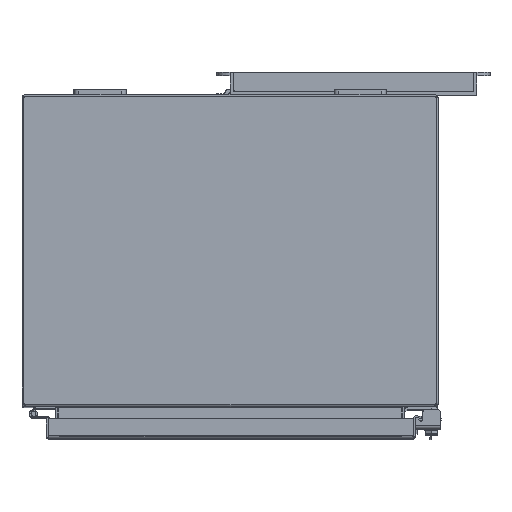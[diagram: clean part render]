
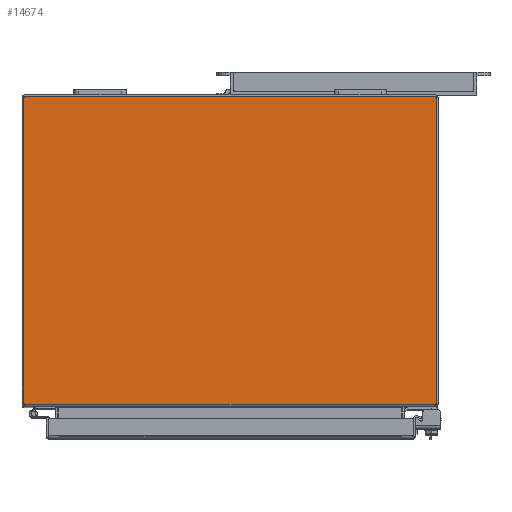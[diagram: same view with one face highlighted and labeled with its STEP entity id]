
A CAD part, top view. The second image highlights one B-rep face of the part: STEP entity #14674.
In plain terms, the highlighted planar face has unit normal (0, 0, 1).
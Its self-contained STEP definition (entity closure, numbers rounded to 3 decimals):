
#1687=LINE('',#27127,#3010);
#1691=LINE('',#27136,#3014);
#1694=LINE('',#27143,#3017);
#1698=LINE('',#27150,#3021);
#3010=VECTOR('',#19622,1000.);
#3014=VECTOR('',#19630,1000.);
#3017=VECTOR('',#19635,1000.);
#3021=VECTOR('',#19641,1000.);
#7728=ORIENTED_EDGE('',*,*,#9814,.F.);
#7729=ORIENTED_EDGE('',*,*,#9813,.F.);
#7730=ORIENTED_EDGE('',*,*,#9806,.F.);
#7731=ORIENTED_EDGE('',*,*,#9809,.T.);
#7732=ORIENTED_EDGE('',*,*,#9817,.F.);
#7733=ORIENTED_EDGE('',*,*,#9802,.T.);
#9802=EDGE_CURVE('',#11142,#11148,#1687,.T.);
#9806=EDGE_CURVE('',#11151,#11152,#1691,.T.);
#9809=EDGE_CURVE('',#11151,#11154,#1694,.T.);
#9813=EDGE_CURVE('',#11152,#11156,#1698,.T.);
#9814=EDGE_CURVE('',#11156,#11148,#11608,.T.);
#9817=EDGE_CURVE('',#11142,#11154,#11611,.T.);
#11142=VERTEX_POINT('',#27038);
#11148=VERTEX_POINT('',#27120);
#11151=VERTEX_POINT('',#27135);
#11152=VERTEX_POINT('',#27137);
#11154=VERTEX_POINT('',#27142);
#11156=VERTEX_POINT('',#27148);
#11608=CIRCLE('',#15976,6.35);
#11611=CIRCLE('',#15981,6.35);
#12476=EDGE_LOOP('',(#7728,#7729,#7730,#7731,#7732,#7733));
#13369=FACE_BOUND('',#12476,.T.);
#13895=PLANE('',#15982);
#14674=ADVANCED_FACE('',(#13369),#13895,.T.);
#15976=AXIS2_PLACEMENT_3D('',#27152,#19644,#19645);
#15981=AXIS2_PLACEMENT_3D('',#27157,#19654,#19655);
#15982=AXIS2_PLACEMENT_3D('',#27158,#19656,#19657);
#19622=DIRECTION('',(1.,0.,0.));
#19630=DIRECTION('',(1.,0.,0.));
#19635=DIRECTION('',(0.,-1.,0.));
#19641=DIRECTION('',(0.,-1.,0.));
#19644=DIRECTION('',(0.,0.,-1.));
#19645=DIRECTION('',(-1.,0.,0.));
#19654=DIRECTION('',(0.,0.,-1.));
#19655=DIRECTION('',(1.,0.,0.));
#19656=DIRECTION('',(0.,0.,1.));
#19657=DIRECTION('',(0.,-1.,0.));
#27038=CARTESIAN_POINT('',(-200.62,-148.742,0.));
#27120=CARTESIAN_POINT('',(200.62,-148.742,0.));
#27127=CARTESIAN_POINT('',(-201.371,-148.742,0.));
#27135=CARTESIAN_POINT('',(-201.371,151.486,0.));
#27136=CARTESIAN_POINT('',(-201.371,151.486,0.));
#27137=CARTESIAN_POINT('',(201.371,151.486,0.));
#27142=CARTESIAN_POINT('',(-201.371,-145.746,0.));
#27143=CARTESIAN_POINT('',(-201.371,151.486,0.));
#27148=CARTESIAN_POINT('',(201.371,-145.746,0.));
#27150=CARTESIAN_POINT('',(201.371,151.486,0.));
#27152=CARTESIAN_POINT('',(195.021,-145.746,0.));
#27157=CARTESIAN_POINT('',(-195.021,-145.746,0.));
#27158=CARTESIAN_POINT('',(-201.371,151.486,0.));
